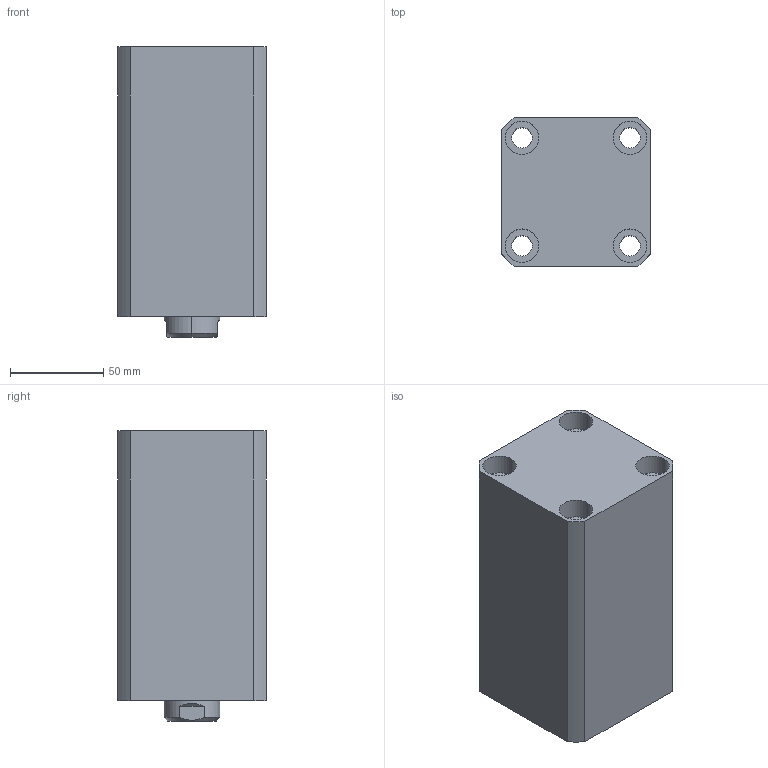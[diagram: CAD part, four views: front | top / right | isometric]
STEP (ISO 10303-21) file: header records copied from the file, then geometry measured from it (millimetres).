
FILE_DESCRIPTION (( 'STEP AP203' ), '1' );
FILE_NAME ('CHTB-SDMA50-85N.STEP', '2018-05-19T02:48:22', ( '' ), ( '' ), 'SwSTEP 2.0', 'SolidWorks 2015', '' );
FILE_SCHEMA (( 'CONFIG_CONTROL_DESIGN' ));
Length unit declared in the file: millimetre
Products named in the file (5): 掛极SDMA50-85N; CHTM-SDMA50QG; CHTB-SDMA50-85N; 活塞杆SDMA50-85N; M6
Assembly tree (5 placements, depth 2):
  CHTB-SDMA50-85N
    掛极SDMA50-85N
    活塞杆SDMA50-85N
    CHTM-SDMA50QG
    M6  x2
Bounding box: 80 x 80 x 156 mm (x, y, z)
Volume: 732772.4 mm3; surface area: 138469.5 mm2
Topology: 5 solids, 5 shells, 270 faces, 703 edges, 464 vertices
Faces by surface type: cylinder 139, plane 58, cone 31, bspline 26, torus 16
Entity records: 14133 total; most frequent: CARTESIAN_POINT 8131, ORIENTED_EDGE 1208, DIRECTION 1054, EDGE_CURVE 604, AXIS2_PLACEMENT_3D 433, VERTEX_POINT 403, EDGE_LOOP 277, FACE_OUTER_BOUND 235
